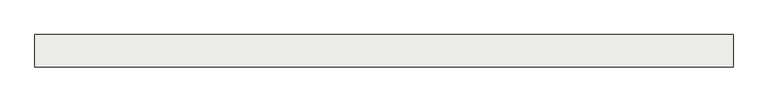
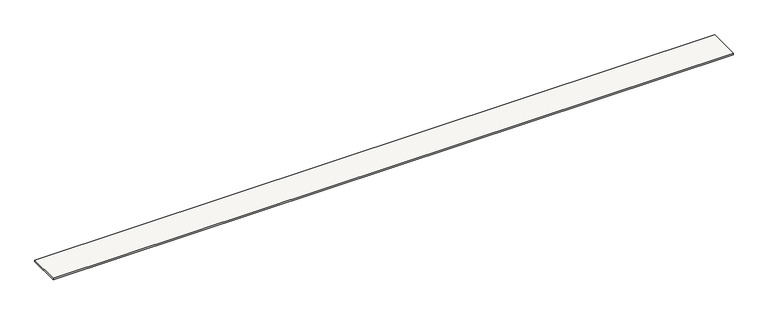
"""IFC4 building model written with IfcOpenShell, lengths in millimetres: slab geometry, Sol-02 - Tablette bois 2cm."""

from ifc_helpers import new_model, si_unit, origin, origin_with_axes, place, context, project, spatial, polyline, outline, extrude, source, transform, mapped, element, save


def slab_f907b168(model_context):
    return source(origin(), model_context, "Body", "SweptSolid", [
        extrude(outline(polyline([(7503.9999799, 11349.9999995), (7503.9999799, 10999.9999995), (0.0, 10999.9999995), (0.0, 11349.9999995), (7503.9999799, 11349.9999995)])), origin_with_axes(), (0.0, 0.0, 1.0), 20.0),
    ])


if __name__ == "__main__":
    model = new_model("IFC4")
    model_context = context("Model", 3, world=origin())
    ifc_project = project(units=[si_unit("LENGTHUNIT", "METRE", prefix="MILLI")], contexts=[model_context])
    site = spatial("IfcSite", under=ifc_project)
    building = spatial("IfcBuilding", under=site)
    placement = place(None, origin())
    slab_shape = slab_f907b168(model_context)
    element("IfcSlab", 1, ObjectType="Sol-02 - Tablette bois 2cm", at=placement, inside=building, context=model_context, shape_type="MappedRepresentation", body=[
        mapped(slab_shape, transform((0.0, 0.0, 0.0), x_axis=(1.0, 0.0, 0.0), y_axis=(0.0, 1.0, 0.0), z_axis=(0.0, 0.0, 1.0))),
    ])
    save(model, "model.ifc")
